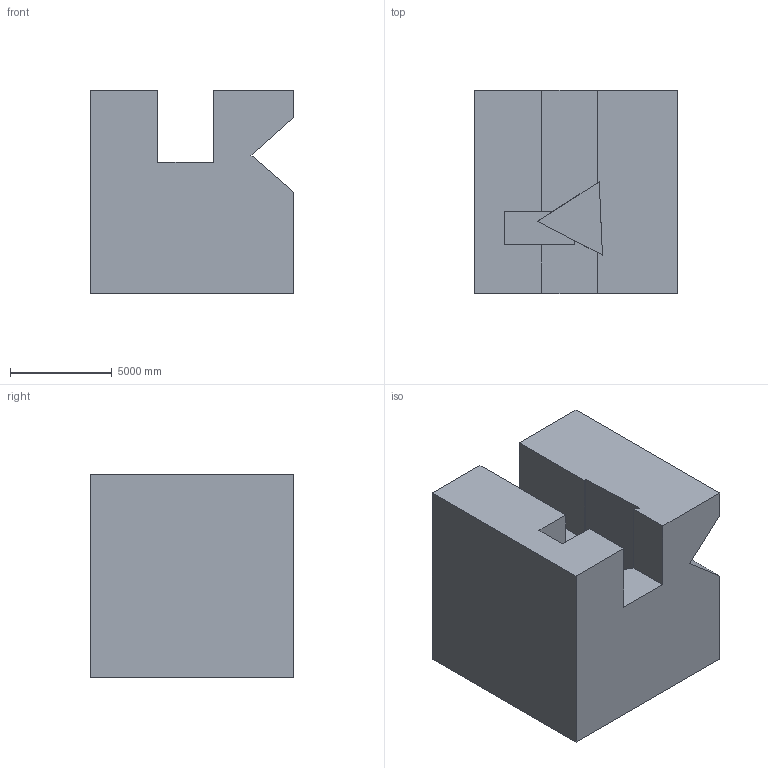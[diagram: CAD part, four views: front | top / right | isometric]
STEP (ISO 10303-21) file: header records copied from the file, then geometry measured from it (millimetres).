
FILE_DESCRIPTION (( 'STEP AP203' ), '1' );
FILE_NAME ('267.STEP', '2022-09-07T12:31:34', ( 'user' ), ( '' ), 'SwSTEP 2.0', 'SolidWorks 2021', '' );
FILE_SCHEMA (( 'CONFIG_CONTROL_DESIGN' ));
Length unit declared in the file: centimetre
Products named in the file (1): 267
Bounding box: 10000 x 10000 x 10000 mm (x, y, z)
Volume: 839752221351.6 mm3; surface area: 701456571.9 mm2
Topology: 1 solids, 1 shells, 25 faces, 69 edges, 46 vertices
Faces by surface type: plane 25
Entity records: 860 total; most frequent: CARTESIAN_POINT 141, ORIENTED_EDGE 138, DIRECTION 121, LINE 69, VECTOR 69, EDGE_CURVE 69, VERTEX_POINT 46, AXIS2_PLACEMENT_3D 26
